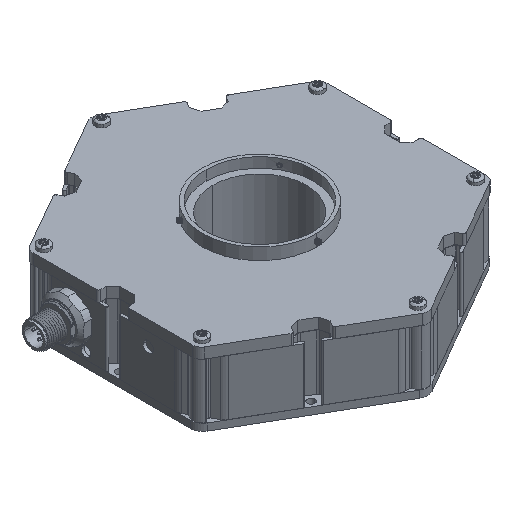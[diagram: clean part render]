
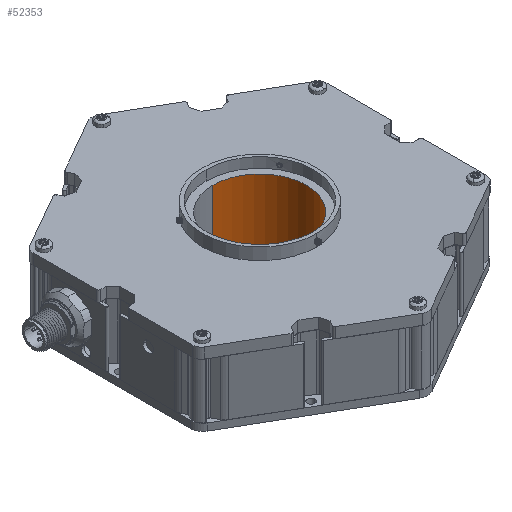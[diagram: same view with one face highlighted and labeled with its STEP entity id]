
A CAD part, isometric view. The second image highlights one B-rep face of the part: STEP entity #52353.
In plain terms, the highlighted cylindrical face has radius 21 mm (diameter 42 mm), a partial arc.
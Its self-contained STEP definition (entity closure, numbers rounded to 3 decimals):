
#104 = CARTESIAN_POINT ( 'NONE',  ( 0., 29.5, 0. ) ) ;
#744 = CARTESIAN_POINT ( 'NONE',  ( 0., 29.5, 21. ) ) ;
#3743 = CARTESIAN_POINT ( 'NONE',  ( 0., 101.908, 0. ) ) ;
#3829 = AXIS2_PLACEMENT_3D ( 'NONE', #9388, #21527, #33947 ) ;
#4288 = FACE_OUTER_BOUND ( 'NONE', #12728, .T. ) ;
#4646 = EDGE_CURVE ( 'NONE', #37762, #28365, #8141, .T. ) ;
#6515 = EDGE_CURVE ( 'NONE', #11236, #28365, #38473, .T. ) ;
#7438 = ORIENTED_EDGE ( 'NONE', *, *, #4646, .F. ) ;
#8141 = LINE ( 'NONE', #37237, #50464 ) ;
#8542 = DIRECTION ( 'NONE',  ( 0., 0., -1. ) ) ;
#9388 = CARTESIAN_POINT ( 'NONE',  ( 0., -6.45, 0. ) ) ;
#11236 = VERTEX_POINT ( 'NONE', #23608 ) ;
#12514 = DIRECTION ( 'NONE',  ( 0., -1., 0. ) ) ;
#12563 = DIRECTION ( 'NONE',  ( 0., 0., 1. ) ) ;
#12728 = EDGE_LOOP ( 'NONE', ( #7438, #25956, #14860, #17522 ) ) ;
#14860 = ORIENTED_EDGE ( 'NONE', *, *, #36481, .T. ) ;
#16743 = VECTOR ( 'NONE', #20793, 1000. ) ;
#17522 = ORIENTED_EDGE ( 'NONE', *, *, #6515, .T. ) ;
#20793 = DIRECTION ( 'NONE',  ( 0., -1., 0. ) ) ;
#21527 = DIRECTION ( 'NONE',  ( 0., -1., 0. ) ) ;
#23608 = CARTESIAN_POINT ( 'NONE',  ( 0., -6.45, -21. ) ) ;
#24098 = AXIS2_PLACEMENT_3D ( 'NONE', #3743, #12514, #8542 ) ;
#24516 = LINE ( 'NONE', #28981, #16743 ) ;
#24555 = DIRECTION ( 'NONE',  ( 0., -1., 0. ) ) ;
#25129 = CARTESIAN_POINT ( 'NONE',  ( 0., 29.5, -21. ) ) ;
#25956 = ORIENTED_EDGE ( 'NONE', *, *, #37249, .F. ) ;
#28365 = VERTEX_POINT ( 'NONE', #30916 ) ;
#28408 = DIRECTION ( 'NONE',  ( 0., -1., 0. ) ) ;
#28981 = CARTESIAN_POINT ( 'NONE',  ( 0., 101.908, -21. ) ) ;
#30916 = CARTESIAN_POINT ( 'NONE',  ( 0., -6.45, 21. ) ) ;
#30993 = VERTEX_POINT ( 'NONE', #25129 ) ;
#31094 = CIRCLE ( 'NONE', #36174, 21. ) ;
#33947 = DIRECTION ( 'NONE',  ( 0., 0., -1. ) ) ;
#36174 = AXIS2_PLACEMENT_3D ( 'NONE', #104, #28408, #12563 ) ;
#36481 = EDGE_CURVE ( 'NONE', #30993, #11236, #24516, .T. ) ;
#37237 = CARTESIAN_POINT ( 'NONE',  ( 0., 101.908, 21. ) ) ;
#37249 = EDGE_CURVE ( 'NONE', #30993, #37762, #31094, .T. ) ;
#37762 = VERTEX_POINT ( 'NONE', #744 ) ;
#38473 = CIRCLE ( 'NONE', #3829, 21. ) ;
#48746 = CYLINDRICAL_SURFACE ( 'NONE', #24098, 21. ) ;
#50464 = VECTOR ( 'NONE', #24555, 1000. ) ;
#52353 = ADVANCED_FACE ( 'NONE', ( #4288 ), #48746, .F. ) ;
